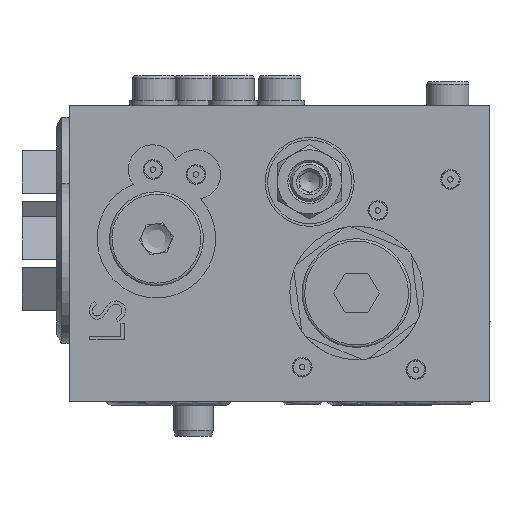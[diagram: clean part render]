
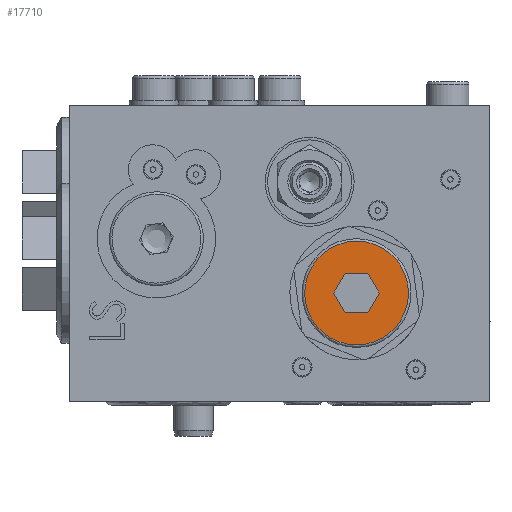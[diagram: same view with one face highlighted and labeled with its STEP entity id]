
A CAD part, left-side view. The second image highlights one B-rep face of the part: STEP entity #17710.
In plain terms, the highlighted planar face has unit normal (-1, 0, 0).
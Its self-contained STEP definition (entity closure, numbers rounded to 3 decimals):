
#1311 = ORIENTED_EDGE ( 'NONE', *, *, #26706, .T. ) ;
#2425 = CARTESIAN_POINT ( 'NONE',  ( -5., 2.309, 4. ) ) ;
#2957 = FACE_BOUND ( 'NONE', #30115, .T. ) ;
#3016 = CARTESIAN_POINT ( 'NONE',  ( -5., 4.619, 0. ) ) ;
#4058 = CARTESIAN_POINT ( 'NONE',  ( -5., -4.619, 0. ) ) ;
#5450 = CARTESIAN_POINT ( 'NONE',  ( -5., -2.309, -4. ) ) ;
#5459 = FACE_OUTER_BOUND ( 'NONE', #28862, .T. ) ;
#5735 = VECTOR ( 'NONE', #16087, 1000. ) ;
#5816 = CARTESIAN_POINT ( 'NONE',  ( -5., -4.619, 0. ) ) ;
#8045 = VERTEX_POINT ( 'NONE', #4058 ) ;
#8462 = CARTESIAN_POINT ( 'NONE',  ( -5., 4.619, 0. ) ) ;
#9477 = LINE ( 'NONE', #11665, #23602 ) ;
#9549 = DIRECTION ( 'NONE',  ( 0., 0., 1. ) ) ;
#9895 = VERTEX_POINT ( 'NONE', #3016 ) ;
#10475 = VERTEX_POINT ( 'NONE', #18463 ) ;
#10855 = LINE ( 'NONE', #5816, #5735 ) ;
#11454 = VECTOR ( 'NONE', #13733, 1000. ) ;
#11665 = CARTESIAN_POINT ( 'NONE',  ( -5., 2.309, -4. ) ) ;
#11717 = EDGE_CURVE ( 'NONE', #8045, #10475, #10855, .T. ) ;
#12000 = EDGE_CURVE ( 'NONE', #9895, #20494, #23439, .T. ) ;
#12442 = VECTOR ( 'NONE', #12492, 1000. ) ;
#12492 = DIRECTION ( 'NONE',  ( 0., -1., 0. ) ) ;
#12564 = ORIENTED_EDGE ( 'NONE', *, *, #23694, .T. ) ;
#12861 = CARTESIAN_POINT ( 'NONE',  ( -5., 0., 0. ) ) ;
#13733 = DIRECTION ( 'NONE',  ( 0., -0.5, -0.866 ) ) ;
#13765 = ORIENTED_EDGE ( 'NONE', *, *, #29965, .T. ) ;
#13856 = ORIENTED_EDGE ( 'NONE', *, *, #30924, .T. ) ;
#14711 = VERTEX_POINT ( 'NONE', #26155 ) ;
#15026 = CARTESIAN_POINT ( 'NONE',  ( -5., -2.309, 4. ) ) ;
#15671 = ORIENTED_EDGE ( 'NONE', *, *, #11717, .T. ) ;
#16087 = DIRECTION ( 'NONE',  ( 0., 0.5, -0.866 ) ) ;
#16802 = EDGE_CURVE ( 'NONE', #14711, #9895, #9477, .T. ) ;
#16885 = VECTOR ( 'NONE', #21417, 1000. ) ;
#17710 = ADVANCED_FACE ( 'NONE', ( #5459, #2957 ), #26301, .T. ) ;
#18367 = CARTESIAN_POINT ( 'NONE',  ( -5., 0., 10.5 ) ) ;
#18463 = CARTESIAN_POINT ( 'NONE',  ( -5., -2.309, -4. ) ) ;
#18903 = DIRECTION ( 'NONE',  ( 0., -0.5, 0.866 ) ) ;
#18970 = CARTESIAN_POINT ( 'NONE',  ( -5., -2.309, 4. ) ) ;
#19844 = CARTESIAN_POINT ( 'NONE',  ( -5., 0., 0. ) ) ;
#19930 = LINE ( 'NONE', #2425, #12442 ) ;
#20494 = VERTEX_POINT ( 'NONE', #32008 ) ;
#21098 = DIRECTION ( 'NONE',  ( 0., 0., 1. ) ) ;
#21417 = DIRECTION ( 'NONE',  ( 0., 1., 0. ) ) ;
#21773 = DIRECTION ( 'NONE',  ( 0., 0.5, 0.866 ) ) ;
#21818 = AXIS2_PLACEMENT_3D ( 'NONE', #19844, #25203, #9549 ) ;
#22149 = ORIENTED_EDGE ( 'NONE', *, *, #16802, .T. ) ;
#23163 = AXIS2_PLACEMENT_3D ( 'NONE', #12861, #28278, #21098 ) ;
#23439 = LINE ( 'NONE', #8462, #30897 ) ;
#23602 = VECTOR ( 'NONE', #21773, 1000. ) ;
#23694 = EDGE_CURVE ( 'NONE', #31063, #31063, #26099, .T. ) ;
#25203 = DIRECTION ( 'NONE',  ( -1., 0., 0. ) ) ;
#25693 = LINE ( 'NONE', #18970, #11454 ) ;
#26099 = CIRCLE ( 'NONE', #21818, 10.5 ) ;
#26155 = CARTESIAN_POINT ( 'NONE',  ( -5., 2.309, -4. ) ) ;
#26301 = PLANE ( 'NONE',  #23163 ) ;
#26706 = EDGE_CURVE ( 'NONE', #20494, #26773, #19930, .T. ) ;
#26773 = VERTEX_POINT ( 'NONE', #15026 ) ;
#28278 = DIRECTION ( 'NONE',  ( -1., 0., 0. ) ) ;
#28431 = LINE ( 'NONE', #5450, #16885 ) ;
#28862 = EDGE_LOOP ( 'NONE', ( #12564 ) ) ;
#28886 = ORIENTED_EDGE ( 'NONE', *, *, #12000, .T. ) ;
#29965 = EDGE_CURVE ( 'NONE', #26773, #8045, #25693, .T. ) ;
#30115 = EDGE_LOOP ( 'NONE', ( #13765, #15671, #13856, #22149, #28886, #1311 ) ) ;
#30897 = VECTOR ( 'NONE', #18903, 1000. ) ;
#30924 = EDGE_CURVE ( 'NONE', #10475, #14711, #28431, .T. ) ;
#31063 = VERTEX_POINT ( 'NONE', #18367 ) ;
#32008 = CARTESIAN_POINT ( 'NONE',  ( -5., 2.309, 4. ) ) ;
